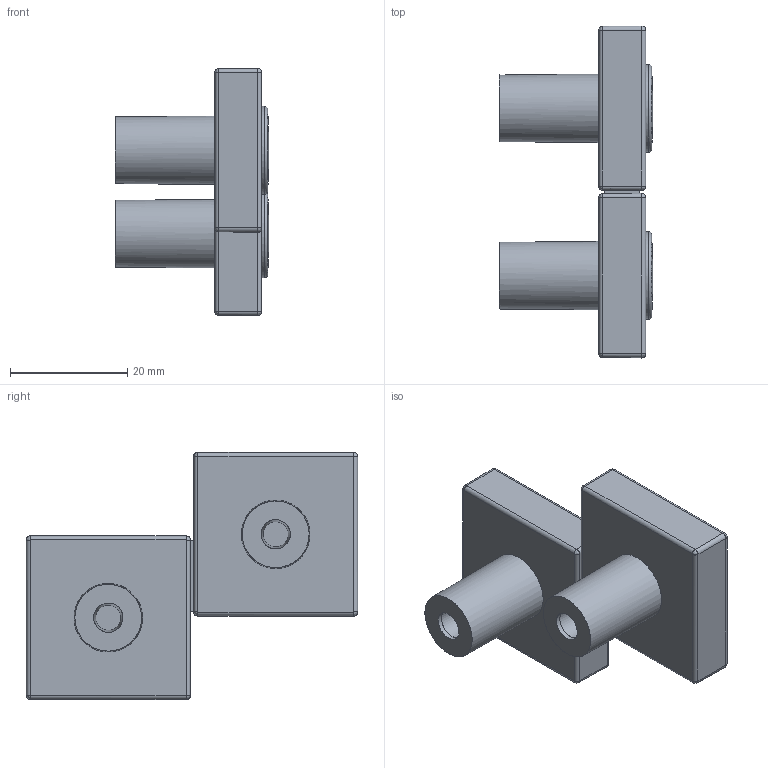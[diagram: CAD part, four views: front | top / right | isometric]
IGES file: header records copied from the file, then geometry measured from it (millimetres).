
Start section: C
Global section: file name: 8130-56.igs; native system: By Siemens PLM Incorporated; preprocessor: XPlus GENERIC/IGES 16.0.42; author: Author; organization: Title; date: 20231122.135741; units: millimetre
Bounding box: 26.2 x 56.65 x 42.21 mm (x, y, z)
Surface area: 10288.7 mm2 (no closed solid volume)
Topology: 0 solids, 0 shells, 94 faces, 454 edges, 452 vertices
Faces by surface type: bspline 94
